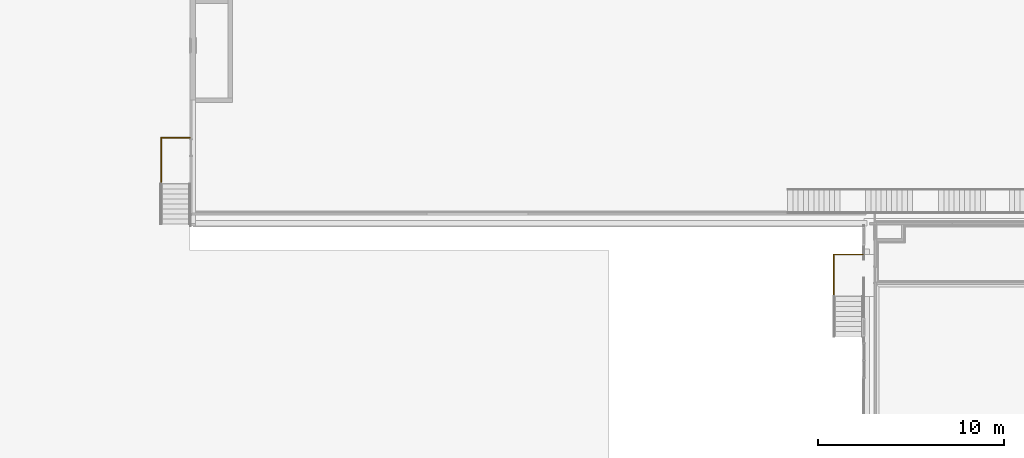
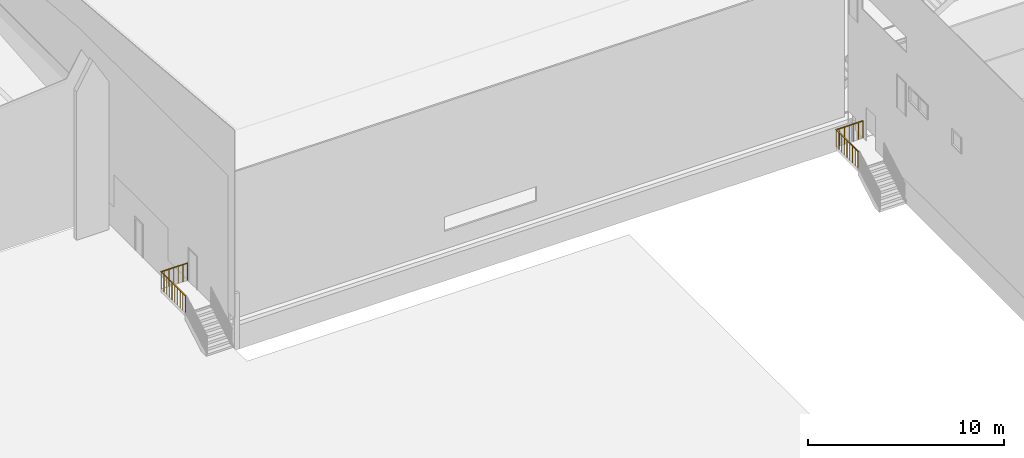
# One storey, part 58 of 64: 2 railings.
"""IFC2X3 building model written with IfcOpenShell, lengths in millimetres."""

from ifc_helpers import new_model, entity, si_unit, converted_unit, derived_unit, direction, frame, origin, place, context, subcontext, project, spatial, faceted_brep, element, save


model = new_model("IFC2X3")

# Units and contexts
model_context = context("Model", 3, precision=0.01, world=origin(), true_north=direction((4.05803320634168e-15, -1.0)))
body_context = subcontext(model_context, "Body", "Model", "MODEL_VIEW")
ifc_project = project(units=[si_unit("LENGTHUNIT", "METRE", prefix="MILLI"), si_unit("AREAUNIT", "SQUARE_METRE"), si_unit("VOLUMEUNIT", "CUBIC_METRE"), converted_unit("PLANEANGLEUNIT", "DEGREE", entity("IfcRatioMeasure", 0.0174532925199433), si_unit("PLANEANGLEUNIT", "RADIAN"), dimensions=[0, 0, 0, 0, 0, 0, 0]), si_unit("MASSUNIT", "GRAM", prefix="KILO"), derived_unit("MASSDENSITYUNIT", [(si_unit("MASSUNIT", "GRAM", prefix="KILO"), 1), (si_unit("LENGTHUNIT", "METRE"), -3)]), si_unit("TIMEUNIT", "SECOND"), si_unit("FREQUENCYUNIT", "HERTZ"), si_unit("THERMODYNAMICTEMPERATUREUNIT", "DEGREE_CELSIUS"), derived_unit("THERMALTRANSMITTANCEUNIT", [(si_unit("MASSUNIT", "GRAM", prefix="KILO"), 1), (si_unit("THERMODYNAMICTEMPERATUREUNIT", "KELVIN"), -1), (si_unit("TIMEUNIT", "SECOND"), -3)]), derived_unit("VOLUMETRICFLOWRATEUNIT", [(si_unit("LENGTHUNIT", "METRE"), 3), (si_unit("TIMEUNIT", "SECOND"), -1)]), si_unit("ELECTRICCURRENTUNIT", "AMPERE"), si_unit("ELECTRICVOLTAGEUNIT", "VOLT"), si_unit("POWERUNIT", "WATT"), si_unit("FORCEUNIT", "NEWTON", prefix="KILO"), si_unit("ILLUMINANCEUNIT", "LUX"), si_unit("LUMINOUSFLUXUNIT", "LUMEN"), si_unit("LUMINOUSINTENSITYUNIT", "CANDELA"), derived_unit("USERDEFINED", [(si_unit("MASSUNIT", "GRAM", prefix="KILO"), -1), (si_unit("LENGTHUNIT", "METRE"), -2), (si_unit("TIMEUNIT", "SECOND"), 3), (si_unit("LUMINOUSFLUXUNIT", "LUMEN"), 1)]), derived_unit("LINEARVELOCITYUNIT", [(si_unit("LENGTHUNIT", "METRE"), 1), (si_unit("TIMEUNIT", "SECOND"), -1)]), si_unit("PRESSUREUNIT", "PASCAL"), derived_unit("USERDEFINED", [(si_unit("LENGTHUNIT", "METRE"), -2), (si_unit("MASSUNIT", "GRAM", prefix="KILO"), 1), (si_unit("TIMEUNIT", "SECOND"), -2)])], contexts=[model_context])

# Site, building, storey
site_placement = place(None, frame((927466.849349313, 583801.882853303, 0.0), z_axis=(0.0, 0.0, 1.0), x_axis=(-1.0, 0.0, 0.0)))
site = spatial("IfcSite", under=ifc_project, at=site_placement, Name="Surface", CompositionType="ELEMENT")
building_placement = place(site_placement, origin())
building = spatial("IfcBuilding", under=site, at=building_placement, CompositionType="ELEMENT")
storey_placement = place(building_placement, frame((0.0, 0.0, 44170.0)))
storey = spatial("IfcBuildingStorey", under=building, at=storey_placement, Name="Ground FFL", CompositionType="ELEMENT", Elevation=44170.0)

# Railings
railing_1_placement = place(storey_placement, frame((-44599.0423298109, 7307.08571852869, 0.0)))
element("IfcRailing", 1, at=railing_1_placement, inside=storey, Name="Railing:1100mm", ObjectType="Railing:1100mm", PredefinedType="NOTDEFINED", context=body_context, shape_type="Brep", body=[
    faceted_brep([(1547.50000000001, 2487.5, 1050.0), (1547.50000000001, 2487.5, 0.0), (1572.50000000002, 2487.5, 0.0), (1572.50000000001, 2487.5, 1050.0), (1572.50000000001, 2512.50000000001, 0.0), (1572.50000000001, 2512.5, 1050.0), (1547.5, 2512.5, 0.0), (1547.50000000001, 2512.5, 1050.0)], [[[0, 1, 2, 3]], [[3, 2, 4, 5]], [[5, 4, 6, 7]], [[1, 0, 7, 6]], [[0, 3, 5, 7]], [[2, 1, 6, 4]]]),
    faceted_brep([(1547.50000000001, 2212.5, 1050.0), (1547.50000000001, 2212.5, 0.0), (1572.50000000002, 2212.5, 0.0), (1572.50000000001, 2212.5, 1050.0), (1572.50000000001, 2237.5, 0.0), (1572.50000000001, 2237.5, 1050.0), (1547.5, 2237.5, 0.0), (1547.50000000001, 2237.5, 1050.0)], [[[0, 1, 2, 3]], [[3, 2, 4, 5]], [[5, 4, 6, 7]], [[1, 0, 7, 6]], [[0, 3, 5, 7]], [[2, 1, 6, 4]]]),
    faceted_brep([(1547.50000000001, 1937.5, 1050.0), (1547.50000000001, 1937.5, 0.0), (1572.50000000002, 1937.5, 0.0), (1572.50000000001, 1937.5, 1050.0), (1572.50000000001, 1962.5, 0.0), (1572.50000000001, 1962.5, 1050.0), (1547.5, 1962.5, 0.0), (1547.50000000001, 1962.5, 1050.0)], [[[0, 1, 2, 3]], [[3, 2, 4, 5]], [[5, 4, 6, 7]], [[1, 0, 7, 6]], [[0, 3, 5, 7]], [[2, 1, 6, 4]]]),
    faceted_brep([(1547.50000000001, 1662.5, 1050.0), (1547.50000000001, 1662.5, 0.0), (1572.50000000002, 1662.5, 0.0), (1572.50000000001, 1662.5, 1050.0), (1572.50000000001, 1687.5, 0.0), (1572.50000000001, 1687.5, 1050.0), (1547.5, 1687.5, 0.0), (1547.50000000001, 1687.5, 1050.0)], [[[0, 1, 2, 3]], [[3, 2, 4, 5]], [[5, 4, 6, 7]], [[1, 0, 7, 6]], [[0, 3, 5, 7]], [[2, 1, 6, 4]]]),
    faceted_brep([(1547.50000000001, 1387.5, 1050.0), (1547.50000000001, 1387.5, 0.0), (1572.50000000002, 1387.5, 0.0), (1572.50000000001, 1387.5, 1050.0), (1572.50000000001, 1412.5, 0.0), (1572.50000000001, 1412.5, 1050.0), (1547.5, 1412.5, 0.0), (1547.50000000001, 1412.5, 1050.0)], [[[0, 1, 2, 3]], [[3, 2, 4, 5]], [[5, 4, 6, 7]], [[1, 0, 7, 6]], [[0, 3, 5, 7]], [[2, 1, 6, 4]]]),
    faceted_brep([(1547.50000000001, 1112.5, 1050.0), (1547.50000000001, 1112.5, 0.0), (1572.50000000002, 1112.5, 0.0), (1572.50000000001, 1112.5, 1050.0), (1572.50000000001, 1137.5, 0.0), (1572.50000000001, 1137.5, 1050.0), (1547.5, 1137.5, 0.0), (1547.50000000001, 1137.5, 1050.0)], [[[0, 1, 2, 3]], [[3, 2, 4, 5]], [[5, 4, 6, 7]], [[1, 0, 7, 6]], [[0, 3, 5, 7]], [[2, 1, 6, 4]]]),
    faceted_brep([(1547.50000000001, 837.500000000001, 1050.0), (1547.50000000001, 837.500000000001, 0.0), (1572.50000000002, 837.500000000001, 0.0), (1572.50000000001, 837.500000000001, 1050.0), (1572.50000000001, 862.500000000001, 0.0), (1572.50000000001, 862.500000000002, 1050.0), (1547.5, 862.500000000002, 0.0), (1547.50000000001, 862.500000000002, 1050.0)], [[[0, 1, 2, 3]], [[3, 2, 4, 5]], [[5, 4, 6, 7]], [[1, 0, 7, 6]], [[0, 3, 5, 7]], [[2, 1, 6, 4]]]),
    faceted_brep([(1547.50000000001, 562.500000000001, 1050.0), (1547.50000000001, 562.500000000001, 0.0), (1572.50000000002, 562.500000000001, 0.0), (1572.50000000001, 562.500000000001, 1050.0), (1572.50000000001, 587.500000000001, 0.0), (1572.50000000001, 587.500000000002, 1050.0), (1547.5, 587.500000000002, 0.0), (1547.50000000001, 587.500000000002, 1050.0)], [[[0, 1, 2, 3]], [[3, 2, 4, 5]], [[5, 4, 6, 7]], [[1, 0, 7, 6]], [[0, 3, 5, 7]], [[2, 1, 6, 4]]]),
    faceted_brep([(1547.50000000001, 287.500000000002, 1050.0), (1547.50000000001, 287.500000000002, 0.0), (1572.50000000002, 287.500000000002, 0.0), (1572.50000000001, 287.500000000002, 1050.0), (1572.50000000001, 312.500000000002, 0.0), (1572.50000000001, 312.500000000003, 1050.0), (1547.5, 312.500000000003, 0.0), (1547.50000000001, 312.500000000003, 1050.0)], [[[0, 1, 2, 3]], [[3, 2, 4, 5]], [[5, 4, 6, 7]], [[1, 0, 7, 6]], [[0, 3, 5, 7]], [[2, 1, 6, 4]]]),
    faceted_brep([(1362.50000000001, 37.5000000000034, 1050.0), (1362.50000000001, 37.5000000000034, 0.0), (1362.50000000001, 12.5000000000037, 0.0), (1362.50000000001, 12.5000000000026, 1050.0), (1387.50000000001, 12.5000000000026, 0.0), (1387.50000000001, 12.5000000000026, 1050.0), (1387.50000000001, 37.5000000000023, 0.0), (1387.50000000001, 37.5000000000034, 1050.0)], [[[0, 1, 2, 3]], [[3, 2, 4, 5]], [[5, 4, 6, 7]], [[1, 0, 7, 6]], [[0, 3, 5, 7]], [[2, 1, 6, 4]]]),
    faceted_brep([(1087.50000000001, 37.5000000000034, 1050.0), (1087.50000000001, 37.5000000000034, 0.0), (1087.50000000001, 12.5000000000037, 0.0), (1087.50000000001, 12.5000000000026, 1050.0), (1112.50000000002, 12.5000000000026, 0.0), (1112.50000000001, 12.5000000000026, 1050.0), (1112.50000000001, 37.5000000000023, 0.0), (1112.50000000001, 37.5000000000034, 1050.0)], [[[0, 1, 2, 3]], [[3, 2, 4, 5]], [[5, 4, 6, 7]], [[1, 0, 7, 6]], [[0, 3, 5, 7]], [[2, 1, 6, 4]]]),
    faceted_brep([(812.500000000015, 37.5000000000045, 1050.0), (812.500000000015, 37.5000000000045, 0.0), (812.500000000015, 12.5000000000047, 0.0), (812.500000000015, 12.5000000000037, 1050.0), (837.500000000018, 12.5000000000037, 0.0), (837.500000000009, 12.5000000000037, 1050.0), (837.500000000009, 37.5000000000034, 0.0), (837.500000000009, 37.5000000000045, 1050.0)], [[[0, 1, 2, 3]], [[3, 2, 4, 5]], [[5, 4, 6, 7]], [[1, 0, 7, 6]], [[0, 3, 5, 7]], [[2, 1, 6, 4]]]),
    faceted_brep([(537.500000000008, 37.5000000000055, 1050.0), (537.500000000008, 37.5000000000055, 0.0), (537.500000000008, 12.5000000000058, 0.0), (537.500000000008, 12.5000000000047, 1050.0), (562.500000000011, 12.5000000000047, 0.0), (562.500000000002, 12.5000000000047, 1050.0), (562.500000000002, 37.5000000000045, 0.0), (562.500000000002, 37.5000000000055, 1050.0)], [[[0, 1, 2, 3]], [[3, 2, 4, 5]], [[5, 4, 6, 7]], [[1, 0, 7, 6]], [[0, 3, 5, 7]], [[2, 1, 6, 4]]]),
    faceted_brep([(262.50000000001, 37.5000000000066, 1050.0), (262.50000000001, 37.5000000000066, 0.0), (262.50000000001, 12.5000000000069, 0.0), (262.50000000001, 12.5000000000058, 1050.0), (287.500000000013, 12.5000000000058, 0.0), (287.500000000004, 12.5000000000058, 1050.0), (287.500000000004, 37.5000000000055, 0.0), (287.500000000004, 37.5000000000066, 1050.0)], [[[0, 1, 2, 3]], [[3, 2, 4, 5]], [[5, 4, 6, 7]], [[1, 0, 7, 6]], [[0, 3, 5, 7]], [[2, 1, 6, 4]]]),
    faceted_brep([(1547.50000000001, 37.5000000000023, 1050.0), (1547.50000000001, 37.5000000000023, 0.0), (1547.50000000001, 12.5000000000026, 0.0), (1547.50000000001, 12.5000000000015, 1050.0), (1572.50000000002, 12.5000000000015, 0.0), (1572.50000000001, 12.5000000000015, 1050.0), (1572.50000000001, 37.5000000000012, 0.0), (1572.50000000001, 37.5000000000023, 1050.0)], [[[0, 1, 2, 3]], [[3, 2, 4, 5]], [[5, 4, 6, 7]], [[1, 0, 7, 6]], [[0, 3, 5, 7]], [[2, 1, 6, 4]]]),
    faceted_brep([(1547.50000000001, 2500.0, 1050.0), (1547.50000000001, 2500.0, 0.0), (1572.50000000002, 2500.0, 0.0), (1572.50000000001, 2500.0, 1050.0), (1572.50000000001, 2525.0, 0.0), (1572.50000000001, 2525.0, 1050.0), (1547.5, 2525.0, 0.0), (1547.50000000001, 2525.0, 1050.0)], [[[0, 1, 2, 3]], [[3, 2, 4, 5]], [[5, 4, 6, 7]], [[1, 0, 7, 6]], [[0, 3, 5, 7]], [[2, 1, 6, 4]]]),
    faceted_brep([(0.0, 37.5000000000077, 1050.0), (0.0, 37.5000000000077, 0.0), (0.0, 12.500000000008, 0.0), (0.0, 12.5000000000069, 1050.0), (25.0, 12.5000000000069, 0.0), (25.0, 12.5000000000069, 1050.0), (25.0, 37.5000000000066, 0.0), (25.0, 37.5000000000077, 1050.0)], [[[0, 1, 2, 3]], [[3, 2, 4, 5]], [[5, 4, 6, 7]], [[1, 0, 7, 6]], [[0, 3, 5, 7]], [[2, 1, 6, 4]]]),
    faceted_brep([(0.0, 50.0, 1100.0), (0.0, 50.0, 1050.0), (0.0, 0.0, 1050.0), (0.0, 0.0, 1100.0), (1535.0, 50.0, 1100.0), (1535.0, 50.0, 1050.0), (1585.0, 0.0, 1050.0), (1585.0, 0.0, 1100.0), (1535.0, 2525.0, 1100.0), (1585.0, 2525.0, 1100.0), (1585.0, 2525.0, 1050.0), (1535.0, 2525.0, 1050.0)], [[[0, 1, 2, 3]], [[1, 0, 4, 5]], [[2, 1, 5, 6]], [[3, 2, 6, 7]], [[0, 3, 7, 4]], [[8, 9, 10, 11]], [[5, 4, 8, 11]], [[6, 5, 11, 10]], [[7, 6, 10, 9]], [[4, 7, 9, 8]]]),
])
railing_2_placement = place(storey_placement, frame((-80762.59177989, 13582.4703266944, 0.0)))
element("IfcRailing", 2, at=railing_2_placement, inside=storey, Name="Railing:1100mm", ObjectType="Railing:1100mm", PredefinedType="NOTDEFINED", context=body_context, shape_type="Brep", body=[
    faceted_brep([(1572.1545030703, 2212.50000000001, 1050.0), (1572.1545030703, 2212.50000000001, 0.0), (1597.15450307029, 2212.50000000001, 0.0), (1597.15450307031, 2212.50000000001, 1050.0), (1597.15450307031, 2237.50000000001, 0.0), (1597.15450307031, 2237.50000000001, 1050.0), (1572.15450307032, 2237.50000000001, 0.0), (1572.1545030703, 2237.50000000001, 1050.0)], [[[0, 1, 2, 3]], [[3, 2, 4, 5]], [[5, 4, 6, 7]], [[1, 0, 7, 6]], [[0, 3, 5, 7]], [[2, 1, 6, 4]]]),
    faceted_brep([(1572.1545030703, 1937.50000000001, 1050.0), (1572.1545030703, 1937.50000000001, 0.0), (1597.15450307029, 1937.50000000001, 0.0), (1597.15450307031, 1937.50000000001, 1050.0), (1597.15450307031, 1962.50000000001, 0.0), (1597.15450307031, 1962.50000000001, 1050.0), (1572.15450307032, 1962.50000000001, 0.0), (1572.1545030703, 1962.50000000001, 1050.0)], [[[0, 1, 2, 3]], [[3, 2, 4, 5]], [[5, 4, 6, 7]], [[1, 0, 7, 6]], [[0, 3, 5, 7]], [[2, 1, 6, 4]]]),
    faceted_brep([(1572.1545030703, 1662.50000000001, 1050.0), (1572.1545030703, 1662.50000000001, 0.0), (1597.15450307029, 1662.50000000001, 0.0), (1597.15450307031, 1662.50000000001, 1050.0), (1597.15450307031, 1687.50000000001, 0.0), (1597.15450307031, 1687.50000000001, 1050.0), (1572.15450307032, 1687.50000000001, 0.0), (1572.1545030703, 1687.50000000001, 1050.0)], [[[0, 1, 2, 3]], [[3, 2, 4, 5]], [[5, 4, 6, 7]], [[1, 0, 7, 6]], [[0, 3, 5, 7]], [[2, 1, 6, 4]]]),
    faceted_brep([(1572.1545030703, 1387.50000000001, 1050.0), (1572.1545030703, 1387.50000000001, 0.0), (1597.15450307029, 1387.50000000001, 0.0), (1597.15450307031, 1387.50000000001, 1050.0), (1597.15450307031, 1412.50000000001, 0.0), (1597.15450307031, 1412.50000000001, 1050.0), (1572.15450307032, 1412.50000000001, 0.0), (1572.1545030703, 1412.50000000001, 1050.0)], [[[0, 1, 2, 3]], [[3, 2, 4, 5]], [[5, 4, 6, 7]], [[1, 0, 7, 6]], [[0, 3, 5, 7]], [[2, 1, 6, 4]]]),
    faceted_brep([(1572.1545030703, 1112.50000000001, 1050.0), (1572.1545030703, 1112.50000000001, 0.0), (1597.15450307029, 1112.50000000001, 0.0), (1597.15450307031, 1112.50000000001, 1050.0), (1597.15450307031, 1137.50000000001, 0.0), (1597.15450307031, 1137.50000000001, 1050.0), (1572.15450307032, 1137.50000000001, 0.0), (1572.1545030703, 1137.50000000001, 1050.0)], [[[0, 1, 2, 3]], [[3, 2, 4, 5]], [[5, 4, 6, 7]], [[1, 0, 7, 6]], [[0, 3, 5, 7]], [[2, 1, 6, 4]]]),
    faceted_brep([(1572.1545030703, 837.500000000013, 1050.0), (1572.1545030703, 837.500000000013, 0.0), (1597.15450307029, 837.500000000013, 0.0), (1597.15450307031, 837.500000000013, 1050.0), (1597.15450307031, 862.500000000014, 0.0), (1597.15450307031, 862.500000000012, 1050.0), (1572.15450307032, 862.500000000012, 0.0), (1572.1545030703, 862.500000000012, 1050.0)], [[[0, 1, 2, 3]], [[3, 2, 4, 5]], [[5, 4, 6, 7]], [[1, 0, 7, 6]], [[0, 3, 5, 7]], [[2, 1, 6, 4]]]),
    faceted_brep([(1572.1545030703, 562.500000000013, 1050.0), (1572.1545030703, 562.500000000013, 0.0), (1597.15450307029, 562.500000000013, 0.0), (1597.15450307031, 562.500000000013, 1050.0), (1597.15450307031, 587.500000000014, 0.0), (1597.15450307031, 587.500000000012, 1050.0), (1572.15450307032, 587.500000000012, 0.0), (1572.1545030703, 587.500000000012, 1050.0)], [[[0, 1, 2, 3]], [[3, 2, 4, 5]], [[5, 4, 6, 7]], [[1, 0, 7, 6]], [[0, 3, 5, 7]], [[2, 1, 6, 4]]]),
    faceted_brep([(1572.1545030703, 287.500000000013, 1050.0), (1572.1545030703, 287.500000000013, 0.0), (1597.15450307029, 287.500000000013, 0.0), (1597.15450307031, 287.500000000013, 1050.0), (1597.15450307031, 312.500000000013, 0.0), (1597.15450307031, 312.500000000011, 1050.0), (1572.15450307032, 312.500000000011, 0.0), (1572.1545030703, 312.500000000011, 1050.0)], [[[0, 1, 2, 3]], [[3, 2, 4, 5]], [[5, 4, 6, 7]], [[1, 0, 7, 6]], [[0, 3, 5, 7]], [[2, 1, 6, 4]]]),
    faceted_brep([(1362.49999999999, 37.500000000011, 1050.0), (1362.49999999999, 37.500000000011, 0.0), (1362.49999999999, 12.5000000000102, 0.0), (1362.49999999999, 12.5000000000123, 1050.0), (1387.49999999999, 12.5000000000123, 0.0), (1387.50000000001, 12.5000000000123, 1050.0), (1387.50000000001, 37.5000000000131, 0.0), (1387.50000000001, 37.500000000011, 1050.0)], [[[0, 1, 2, 3]], [[3, 2, 4, 5]], [[5, 4, 6, 7]], [[1, 0, 7, 6]], [[0, 3, 5, 7]], [[2, 1, 6, 4]]]),
    faceted_brep([(1087.49999999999, 37.500000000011, 1050.0), (1087.49999999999, 37.500000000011, 0.0), (1087.49999999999, 12.5000000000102, 0.0), (1087.49999999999, 12.5000000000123, 1050.0), (1112.49999999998, 12.5000000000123, 0.0), (1112.5, 12.5000000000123, 1050.0), (1112.5, 37.5000000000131, 0.0), (1112.5, 37.500000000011, 1050.0)], [[[0, 1, 2, 3]], [[3, 2, 4, 5]], [[5, 4, 6, 7]], [[1, 0, 7, 6]], [[0, 3, 5, 7]], [[2, 1, 6, 4]]]),
    faceted_brep([(812.499999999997, 37.500000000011, 1050.0), (812.499999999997, 37.500000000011, 0.0), (812.499999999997, 12.5000000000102, 0.0), (812.499999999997, 12.5000000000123, 1050.0), (837.499999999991, 12.5000000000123, 0.0), (837.500000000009, 12.5000000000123, 1050.0), (837.500000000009, 37.5000000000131, 0.0), (837.500000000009, 37.500000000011, 1050.0)], [[[0, 1, 2, 3]], [[3, 2, 4, 5]], [[5, 4, 6, 7]], [[1, 0, 7, 6]], [[0, 3, 5, 7]], [[2, 1, 6, 4]]]),
    faceted_brep([(537.49999999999, 37.500000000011, 1050.0), (537.49999999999, 37.500000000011, 0.0), (537.49999999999, 12.5000000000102, 0.0), (537.49999999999, 12.5000000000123, 1050.0), (562.499999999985, 12.5000000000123, 0.0), (562.500000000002, 12.5000000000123, 1050.0), (562.500000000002, 37.5000000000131, 0.0), (562.500000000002, 37.500000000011, 1050.0)], [[[0, 1, 2, 3]], [[3, 2, 4, 5]], [[5, 4, 6, 7]], [[1, 0, 7, 6]], [[0, 3, 5, 7]], [[2, 1, 6, 4]]]),
    faceted_brep([(262.500000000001, 37.500000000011, 1050.0), (262.500000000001, 37.500000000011, 0.0), (262.500000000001, 12.5000000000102, 0.0), (262.500000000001, 12.5000000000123, 1050.0), (287.499999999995, 12.5000000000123, 0.0), (287.500000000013, 12.5000000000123, 1050.0), (287.500000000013, 37.5000000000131, 0.0), (287.500000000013, 37.500000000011, 1050.0)], [[[0, 1, 2, 3]], [[3, 2, 4, 5]], [[5, 4, 6, 7]], [[1, 0, 7, 6]], [[0, 3, 5, 7]], [[2, 1, 6, 4]]]),
    faceted_brep([(1572.1545030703, 37.500000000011, 1050.0), (1572.1545030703, 37.500000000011, 0.0), (1572.1545030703, 12.5000000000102, 0.0), (1572.1545030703, 12.5000000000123, 1050.0), (1597.15450307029, 12.5000000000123, 0.0), (1597.15450307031, 12.5000000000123, 1050.0), (1597.15450307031, 37.5000000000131, 0.0), (1597.15450307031, 37.500000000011, 1050.0)], [[[0, 1, 2, 3]], [[3, 2, 4, 5]], [[5, 4, 6, 7]], [[1, 0, 7, 6]], [[0, 3, 5, 7]], [[2, 1, 6, 4]]]),
    faceted_brep([(1572.1545030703, 2250.0, 1050.0), (1572.1545030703, 2250.0, 0.0), (1597.15450307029, 2250.0, 0.0), (1597.15450307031, 2250.0, 1050.0), (1597.15450307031, 2275.0, 0.0), (1597.15450307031, 2275.0, 1050.0), (1572.15450307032, 2275.0, 0.0), (1572.1545030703, 2275.0, 1050.0)], [[[0, 1, 2, 3]], [[3, 2, 4, 5]], [[5, 4, 6, 7]], [[1, 0, 7, 6]], [[0, 3, 5, 7]], [[2, 1, 6, 4]]]),
    faceted_brep([(0.0, 37.500000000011, 1050.0), (0.0, 37.500000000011, 0.0), (0.0, 12.5000000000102, 0.0), (0.0, 12.5000000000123, 1050.0), (25.0, 12.5000000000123, 0.0), (25.0, 12.5000000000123, 1050.0), (25.0, 37.5000000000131, 0.0), (25.0, 37.500000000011, 1050.0)], [[[0, 1, 2, 3]], [[3, 2, 4, 5]], [[5, 4, 6, 7]], [[1, 0, 7, 6]], [[0, 3, 5, 7]], [[2, 1, 6, 4]]]),
    faceted_brep([(1559.65450307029, 2275.0, 1100.0), (1609.6545030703, 2275.0, 1100.0), (1609.6545030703, 2275.0, 1050.0), (1559.65450307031, 2275.0, 1050.0), (1559.65450307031, 50.0, 1050.0), (1559.65450307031, 50.0, 1100.0), (1609.65450307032, 0.0, 1050.0), (1609.6545030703, 0.0, 1100.0), (0.0, 50.0, 1100.0), (0.0, 50.0, 1050.0), (0.0, 0.0, 1050.0), (0.0, 0.0, 1100.0)], [[[0, 1, 2, 3]], [[4, 5, 0, 3]], [[6, 4, 3, 2]], [[7, 6, 2, 1]], [[5, 7, 1, 0]], [[8, 9, 10, 11]], [[9, 8, 5, 4]], [[10, 9, 4, 6]], [[11, 10, 6, 7]], [[8, 11, 7, 5]]]),
])

save(model, "model.ifc")
